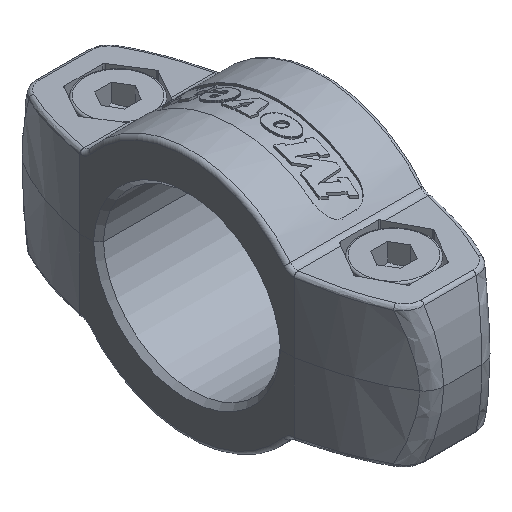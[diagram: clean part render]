
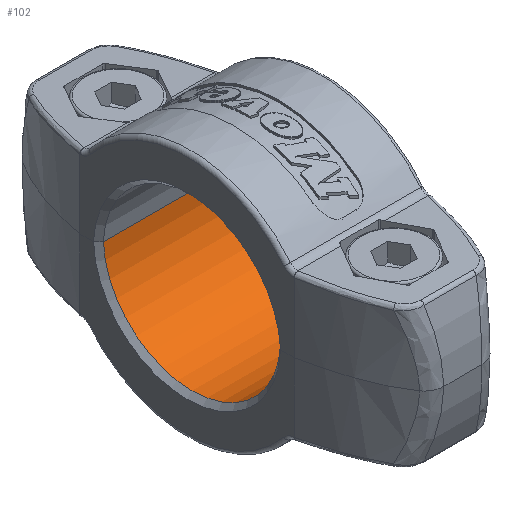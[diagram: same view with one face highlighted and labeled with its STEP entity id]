
A CAD part, isometric view. The second image highlights one B-rep face of the part: STEP entity #102.
In plain terms, the highlighted cylindrical face has radius 9 mm (diameter 18 mm), a partial arc.
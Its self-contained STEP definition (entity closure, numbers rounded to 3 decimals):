
#63=CARTESIAN_POINT('Axis2P3D Location',(0.,0.,0.)) ;
#68=CARTESIAN_POINT('Axis2P3D Location',(-6.5,0.,0.)) ;
#72=CARTESIAN_POINT('Vertex',(-6.5,-8.991,0.4)) ;
#74=CARTESIAN_POINT('Vertex',(-6.5,8.991,0.4)) ;
#77=CARTESIAN_POINT('Line Origine',(0.,8.991,0.4)) ;
#81=CARTESIAN_POINT('Vertex',(6.5,8.991,0.4)) ;
#84=CARTESIAN_POINT('Axis2P3D Location',(6.5,0.,0.)) ;
#88=CARTESIAN_POINT('Vertex',(6.5,-8.991,0.4)) ;
#91=CARTESIAN_POINT('Line Origine',(0.,-8.991,0.4)) ;
#64=DIRECTION('Axis2P3D Direction',(1.,0.,0.)) ;
#65=DIRECTION('Axis2P3D XDirection',(0.,0.999,0.044)) ;
#69=DIRECTION('Axis2P3D Direction',(1.,0.,0.)) ;
#78=DIRECTION('Vector Direction',(1.,0.,0.)) ;
#85=DIRECTION('Axis2P3D Direction',(1.,0.,0.)) ;
#92=DIRECTION('Vector Direction',(1.,0.,0.)) ;
#66=AXIS2_PLACEMENT_3D('Cylinder Axis2P3D',#63,#64,#65) ;
#70=AXIS2_PLACEMENT_3D('Circle Axis2P3D',#68,#69,$) ;
#86=AXIS2_PLACEMENT_3D('Circle Axis2P3D',#84,#85,$) ;
#97=ORIENTED_EDGE('',*,*,#76,.T.) ;
#98=ORIENTED_EDGE('',*,*,#83,.T.) ;
#99=ORIENTED_EDGE('',*,*,#90,.F.) ;
#100=ORIENTED_EDGE('',*,*,#95,.F.) ;
#79=VECTOR('Line Direction',#78,1.) ;
#93=VECTOR('Line Direction',#92,1.) ;
#102=ADVANCED_FACE('PartBody',(#101),#67,.F.) ;
#71=CIRCLE('generated circle',#70,9.) ;
#87=CIRCLE('generated circle',#86,9.) ;
#67=CYLINDRICAL_SURFACE('generated cylinder',#66,9.) ;
#76=EDGE_CURVE('',#73,#75,#71,.F.) ;
#83=EDGE_CURVE('',#75,#82,#80,.T.) ;
#90=EDGE_CURVE('',#89,#82,#87,.F.) ;
#95=EDGE_CURVE('',#73,#89,#94,.T.) ;
#96=EDGE_LOOP('',(#97,#98,#99,#100)) ;
#101=FACE_OUTER_BOUND('',#96,.T.) ;
#80=LINE('Line',#77,#79) ;
#94=LINE('Line',#91,#93) ;
#73=VERTEX_POINT('',#72) ;
#75=VERTEX_POINT('',#74) ;
#82=VERTEX_POINT('',#81) ;
#89=VERTEX_POINT('',#88) ;
